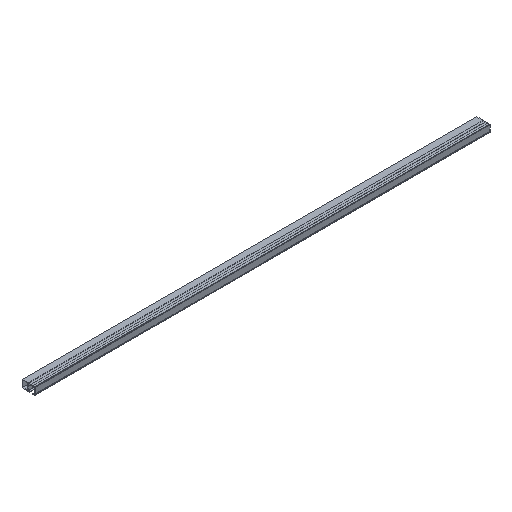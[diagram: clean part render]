
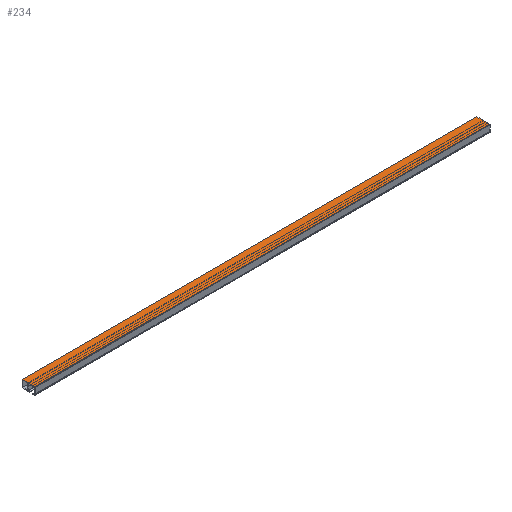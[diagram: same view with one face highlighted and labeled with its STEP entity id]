
A CAD part, isometric view. The second image highlights one B-rep face of the part: STEP entity #234.
In plain terms, the highlighted planar face has unit normal (0, 0, 1).
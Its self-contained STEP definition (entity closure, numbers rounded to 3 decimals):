
#234=ADVANCED_FACE('',(#492),#493,.T.);
#492=FACE_OUTER_BOUND('',#769,.T.);
#493=PLANE('',#770);
#769=EDGE_LOOP('',(#1393,#1394,#1395,#1396));
#770=AXIS2_PLACEMENT_3D('',#1397,#1398,#1399);
#1393=ORIENTED_EDGE('',*,*,#1926,.T.);
#1394=ORIENTED_EDGE('',*,*,#1924,.T.);
#1395=ORIENTED_EDGE('',*,*,#1927,.F.);
#1396=ORIENTED_EDGE('',*,*,#1928,.F.);
#1397=CARTESIAN_POINT('',(2500.0,-15.5,0.));
#1398=DIRECTION('',(0.0,0.,1.0));
#1399=DIRECTION('',(0.0,1.0,0.));
#1924=EDGE_CURVE('',#2370,#2372,#2374,.T.);
#1926=EDGE_CURVE('',#2376,#2370,#2377,.T.);
#1927=EDGE_CURVE('',#2378,#2372,#2379,.T.);
#1928=EDGE_CURVE('',#2376,#2378,#2380,.T.);
#2370=VERTEX_POINT('',#2993);
#2372=VERTEX_POINT('',#2996);
#2374=LINE('',#2999,#3000);
#2376=VERTEX_POINT('',#3002);
#2377=LINE('',#3003,#3004);
#2378=VERTEX_POINT('',#3005);
#2379=LINE('',#3006,#3007);
#2380=LINE('',#3008,#3009);
#2993=CARTESIAN_POINT('',(2050.0,42.,0.));
#2996=CARTESIAN_POINT('',(0.0,42.,0.));
#2999=CARTESIAN_POINT('',(2500.0,42.,0.));
#3000=VECTOR('',#3467,1.0);
#3002=CARTESIAN_POINT('',(2050.0,-15.5,0.));
#3003=CARTESIAN_POINT('',(2050.0,-15.5,0.));
#3004=VECTOR('',#3468,1.0);
#3005=CARTESIAN_POINT('',(0.0,-15.5,0.));
#3006=CARTESIAN_POINT('',(0.0,-15.5,0.));
#3007=VECTOR('',#3469,1.0);
#3008=CARTESIAN_POINT('',(2500.0,-15.5,0.));
#3009=VECTOR('',#3470,1.0);
#3467=DIRECTION('',(-1.0,0.0,0.0));
#3468=DIRECTION('',(0.0,1.0,0.));
#3469=DIRECTION('',(0.0,1.0,0.));
#3470=DIRECTION('',(-1.0,0.0,0.0));
